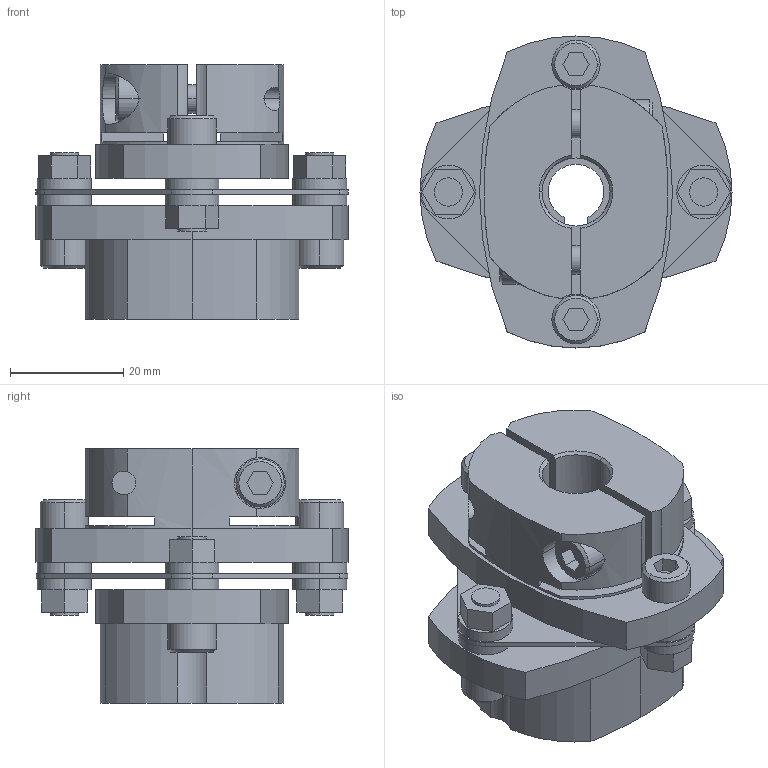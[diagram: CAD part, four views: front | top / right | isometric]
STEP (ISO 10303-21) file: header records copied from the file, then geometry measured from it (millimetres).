
FILE_DESCRIPTION((''),'2;1');
FILE_NAME('LCS-55M-11L亊12B.stp','2011-08-20T15:31:59',(''),(''),'AutoCAD STEP 2000i','AutoCAD 2000i',', , ');
FILE_SCHEMA(('CONFIG_CONTROL_DESIGN'));
Length unit declared in the file: millimetre
Products named in the file (6): LCS-55M-11L×10B; 忣兜1; LC55M-L011; LC55-B010-1; LC55-B010; LCS55-ITA
Assembly tree (6 placements, depth 2):
  LCS-55M-11L×10B
    忣兜1
    LC55M-L011  x2
    LC55-B010-1
    LC55-B010
    LCS55-ITA
Bounding box: 55 x 55 x 44.8 mm (x, y, z)
Volume: 45984 mm3; surface area: 19252.4 mm2
Topology: 1 solids, 1 shells, 240 faces, 608 edges, 400 vertices
Faces by surface type: plane 115, cylinder 104, cone 21
Entity records: 7727 total; most frequent: CARTESIAN_POINT 1547, DIRECTION 1320, ORIENTED_EDGE 1216, EDGE_CURVE 608, AXIS2_PLACEMENT_3D 487, VERTEX_POINT 400, VECTOR 346, LINE 346
